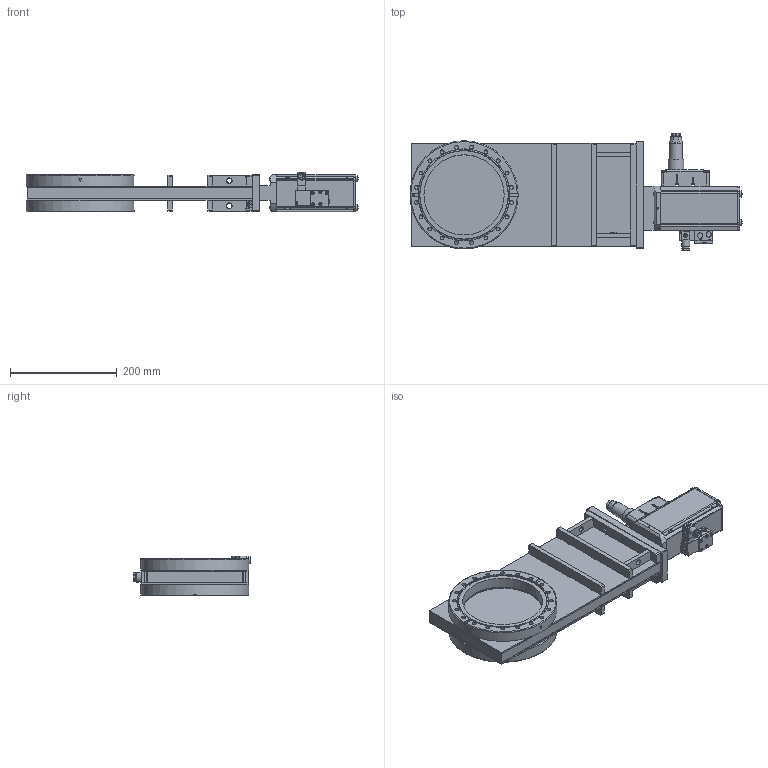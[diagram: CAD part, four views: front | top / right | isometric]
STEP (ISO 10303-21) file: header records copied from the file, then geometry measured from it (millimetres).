
FILE_DESCRIPTION(/* description */ (''),/* implementation_level */ '2;1');
FILE_NAME(/* name */ '1569726541_203.stp',/* time_stamp */ '2021-11-16T08:42:49+01:00',/* author */ (''),/* organization */ (''),/* preprocessor_version */ 'ST-DEVELOPER v16.7',/* originating_system */ 'SIEMENS PLM Software NX 1915',/* authorisation */ '');
FILE_SCHEMA (('AP203_CONFIGURATION_CONTROLLED_3D_DESIGN_OF_MECHANICAL_PARTS_AND_ASSEMBLIES_MIM_LF { 1 0 10303 403 2 1 2}'));
Products named in the file (45): 982213; 467882; 437235; 804858_31017ID; 804850_31037ID; 804857_31035ID; 804857_31034ID; 804844_31033ID; 804853_31032ID; 804858_31031ID; 804844_31030ID; 804857_31028ID; 804858_31027ID; 804853_31026ID; 804845_31024ID; 804845_31023ID; 804857_31021ID; 804858_31018ID; N-7557-016_1.1; N-7557-018.1; N-7557-016_2.1; N-6024-524.1; N-5018-005.1; n-6099-492.1; 25836-01.1; 25836-01.1_31014ID; n-6011-049.1; 70973-01.1; n-6024-548.1; n-8504-002; N-6024-571.1; 85948-01.1; 94223-01.1; 73004-01.1; 348352.1; 916524; 501138; 218198.1; N-7557-016_3.1_MODELNX-ARRAGMNTArrangement 1; 94800-r1.7_NX-ARRAGMNTKONFIG1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
Assembly tree (66 placements, depth 4):
  1001715
    94236-r1.3
      73004-01.1  x4
      94223-01.1
      85948-01.1
      N-6024-571.1  x4
    81045-r1.2_MODEL
      n-8504-002
      n-6024-548.1  x4
      70973-01.1
      n-6011-049.1  x2
    218198.1  x6
    307573.2_MODEL
      804898_MODEL
        804858_31018ID
        804857_31021ID
        804845_31023ID
        804845_31024ID
        804853_31026ID
        804858_31027ID
        804857_31028ID
        804844_31030ID
        804858_31031ID
        804853_31032ID
        804844_31033ID
        804857_31034ID
        804857_31035ID
        804850_31037ID
        804858_31017ID
      25836-01.1_31014ID
      25836-01.1
      n-6099-492.1  x2
    501138
    916524
    348352.1
    94800-r1.7_NX-ARRAGMNTKONFIG1
      N-5018-005.1  x2
      N-6024-524.1  x6
      N-7557-016_2.1
      N-7557-018.1
      N-7557-016_1.1
      N-7557-016_3.1_MODELNX-ARRAGMNTArrangement 1
        437235
        467882
        982213
Bounding box: 621.72 x 220 x 74.53 mm (x, y, z)
Volume: 2425346.7 mm3; surface area: 833380.3 mm2
Topology: 226 solids, 226 shells, 2912 faces, 6891 edges, 4602 vertices
Faces by surface type: plane 2020, cylinder 533, cone 159, torus 91, extrusion 65, sphere 22, bspline 22
Full cylindrical faces by diameter (mm): 0.5 x1, 1.66 x7, 2 x1, 2.125 x1, 2.46 x2, 2.5 x8, 2.65 x1, 3 x15, 3.2 x2, 3.3 x4, 3.4 x4, 3.5 x3, 3.8 x2, 4 x6, 4.2 x4, 4.22 x1, 4.35 x2, 4.4 x4, 4.45 x4, 4.5 x2, 4.625 x2, 5 x5, 5.2 x4, 5.3 x1, 5.4 x1, 5.9 x1, 6 x23, 6.35 x2, 6.6 x4, 6.625 x2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
Entity records: 82797 total; most frequent: CARTESIAN_POINT 20783, DIRECTION 11028, ORIENTED_EDGE 10804, EDGE_CURVE 5402, VERTEX_POINT 3877, AXIS2_PLACEMENT_3D 3706, VECTOR 3616, LINE 3551
